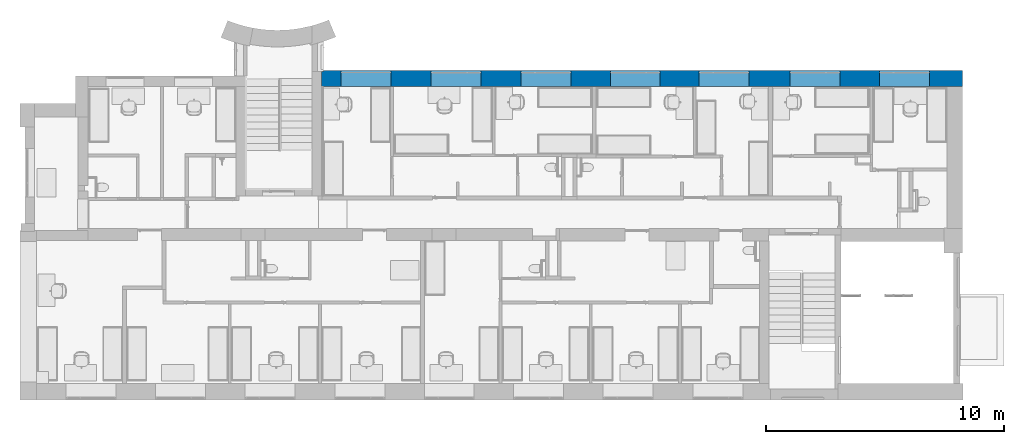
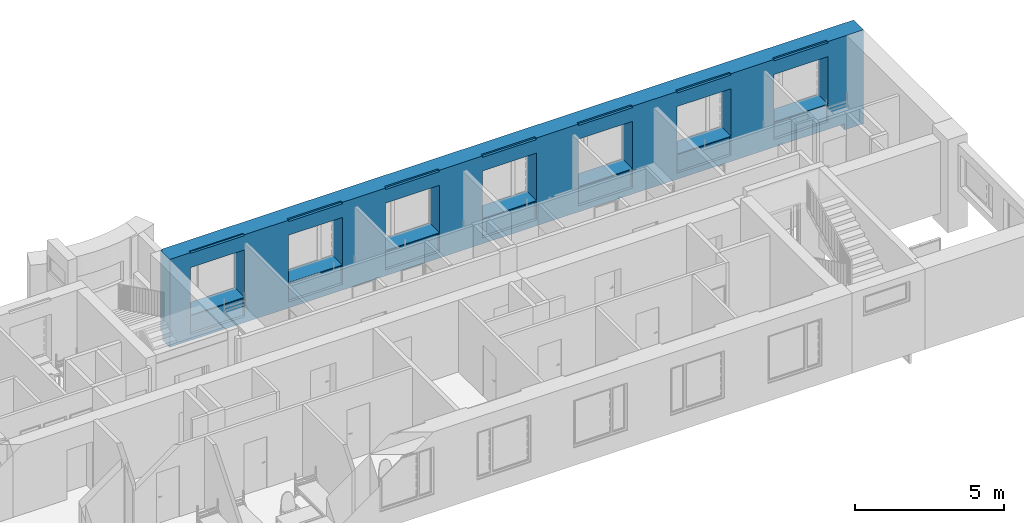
# One storey, part 17 of 46: 1 wall, 7 openings.
"""IFC2X3 building model written with IfcOpenShell, lengths in millimetres."""

from ifc_helpers import new_model, entity, si_unit, converted_unit, derived_unit, direction, frame, frame_2d, origin, place, context, subcontext, project, spatial, rectangle, extrude, faceted_brep, material, layer, layer_set, type_object, element, save


model = new_model("IFC2X3")

# Units and contexts
model_context = context("Model", 3, precision=0.01, world=origin(), true_north=direction((6.12303176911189e-17, 1.0)))
body_context = subcontext(model_context, "Body", "Model", "MODEL_VIEW")
ifc_project = project(units=[si_unit("LENGTHUNIT", "METRE", prefix="MILLI"), si_unit("AREAUNIT", "SQUARE_METRE"), si_unit("VOLUMEUNIT", "CUBIC_METRE"), converted_unit("PLANEANGLEUNIT", "DEGREE", entity("IfcRatioMeasure", 0.0174532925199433), si_unit("PLANEANGLEUNIT", "RADIAN"), dimensions=[0, 0, 0, 0, 0, 0, 0]), si_unit("MASSUNIT", "GRAM", prefix="KILO"), derived_unit("MASSDENSITYUNIT", [(si_unit("MASSUNIT", "GRAM", prefix="KILO"), 1), (si_unit("LENGTHUNIT", "METRE"), -3)]), si_unit("TIMEUNIT", "SECOND"), si_unit("FREQUENCYUNIT", "HERTZ"), si_unit("THERMODYNAMICTEMPERATUREUNIT", "DEGREE_CELSIUS"), derived_unit("THERMALTRANSMITTANCEUNIT", [(si_unit("MASSUNIT", "GRAM", prefix="KILO"), 1), (si_unit("THERMODYNAMICTEMPERATUREUNIT", "KELVIN"), -1), (si_unit("TIMEUNIT", "SECOND"), -3)]), derived_unit("VOLUMETRICFLOWRATEUNIT", [(si_unit("LENGTHUNIT", "METRE"), 3), (si_unit("TIMEUNIT", "SECOND"), -1)]), si_unit("ELECTRICCURRENTUNIT", "AMPERE"), si_unit("ELECTRICVOLTAGEUNIT", "VOLT"), si_unit("POWERUNIT", "WATT"), si_unit("FORCEUNIT", "NEWTON", prefix="KILO"), si_unit("ILLUMINANCEUNIT", "LUX"), si_unit("LUMINOUSFLUXUNIT", "LUMEN"), si_unit("LUMINOUSINTENSITYUNIT", "CANDELA"), derived_unit("USERDEFINED", [(si_unit("MASSUNIT", "GRAM", prefix="KILO"), -1), (si_unit("LENGTHUNIT", "METRE"), -2), (si_unit("TIMEUNIT", "SECOND"), 3), (si_unit("LUMINOUSFLUXUNIT", "LUMEN"), 1)]), derived_unit("LINEARVELOCITYUNIT", [(si_unit("LENGTHUNIT", "METRE"), 1), (si_unit("TIMEUNIT", "SECOND"), -1)]), si_unit("PRESSUREUNIT", "PASCAL"), derived_unit("USERDEFINED", [(si_unit("LENGTHUNIT", "METRE"), -2), (si_unit("MASSUNIT", "GRAM", prefix="KILO"), 1), (si_unit("TIMEUNIT", "SECOND"), -2)]), derived_unit("LINEARFORCEUNIT", [(si_unit("MASSUNIT", "GRAM", prefix="KILO"), 1), (si_unit("LENGTHUNIT", "METRE"), 1), (si_unit("TIMEUNIT", "SECOND"), -2), (si_unit("LENGTHUNIT", "METRE"), -1)]), derived_unit("PLANARFORCEUNIT", [(si_unit("MASSUNIT", "GRAM", prefix="KILO"), 1), (si_unit("LENGTHUNIT", "METRE"), 1), (si_unit("TIMEUNIT", "SECOND"), -2), (si_unit("LENGTHUNIT", "METRE"), -2)])], contexts=[model_context])

# Site, building, storey
site_placement = place(None, origin())
site = spatial("IfcSite", under=ifc_project, at=site_placement, Name="Default", CompositionType="ELEMENT")
building_placement = place(site_placement, origin())
building = spatial("IfcBuilding", under=site, at=building_placement, Name="SMA ARH", CompositionType="ELEMENT")
storey_placement = place(building_placement, origin())
storey = spatial("IfcBuildingStorey", under=building, at=storey_placement, Name="1 Korrus", CompositionType="ELEMENT", Elevation=0.0)

# Wall, openings
ifc_material = material(Name="_ol.olev sein")
ifc_layer = layer(ifc_material, 665.0)
ifc_layer_set = layer_set([ifc_layer], Name="Basic Wall:Generic - 665mm")
wall_type = type_object("IfcWallType", Name="Basic Wall:Generic - 665mm", PredefinedType="STANDARD", material=ifc_layer_set)
wall_placement = place(storey_placement, frame((38965.0, 12832.4999999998, -563.353004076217), z_axis=(0.0, 0.0, 1.0), x_axis=(-1.0, 0.0, 0.0)))
wall = element("IfcWall", 1, at=wall_placement, inside=storey, type_object=wall_type, material=ifc_material, Name="Basic Wall:Generic - 665mm", ObjectType="Basic Wall:Generic - 665mm", context=body_context, shape_type="Brep", body=[
    faceted_brep([(0.0, -332.5, 0.0), (26735.0, -332.499999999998, 0.0), (26735.0, -332.499999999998, 563.353004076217), (26895.0, -332.5, 563.353004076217), (26895.0, -332.5, 3863.35300407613), (0.0, -332.5, 3863.35300407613), (7250.0, -332.5, 3243.35300407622), (7250.0, -332.5, 1293.35300407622), (5150.0, -332.5, 1293.35300407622), (5150.0, -332.5, 3243.35300407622), (1385.0, -332.499999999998, 1293.35300407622), (1385.0, -332.499999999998, 3243.35300407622), (3485.0, -332.499999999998, 3243.35300407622), (3485.0, -332.499999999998, 1293.35300407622), (8975.0, -332.499999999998, 1293.35300407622), (8975.0, -332.499999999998, 3243.35300407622), (11075.0, -332.499999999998, 3243.35300407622), (11075.0, -332.499999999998, 1293.35300407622), (14815.0, -332.5, 3243.35300407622), (14815.0, -332.5, 1293.35300407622), (12715.0, -332.5, 1293.35300407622), (12715.0, -332.5, 3243.35300407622), (16475.0, -332.499999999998, 1293.35300407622), (16475.0, -332.499999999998, 3243.35300407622), (18575.0, -332.499999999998, 3243.35300407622), (18575.0, -332.499999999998, 1293.35300407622), (22355.0, -332.5, 3243.35300407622), (22355.0, -332.5, 1293.35300407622), (20255.0, -332.5, 1293.35300407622), (20255.0, -332.5, 3243.35300407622), (24055.0, -332.499999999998, 1293.35300407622), (24055.0, -332.499999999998, 3243.35300407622), (26155.0, -332.5, 3243.35300407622), (26155.0, -332.5, 1293.35300407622), (7250.0, 332.5, 1293.35300407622), (7250.0, 332.5, 3243.35300407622), (5150.0, 332.5, 3243.35300407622), (5150.0, 332.5, 1293.35300407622), (1385.0, 332.500000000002, 3243.35300407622), (1385.0, 332.500000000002, 1293.35300407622), (3485.0, 332.500000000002, 1293.35300407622), (3485.0, 332.500000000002, 3243.35300407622), (8975.0, 332.500000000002, 3243.35300407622), (8975.0, 332.500000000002, 1293.35300407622), (11075.0, 332.500000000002, 1293.35300407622), (11075.0, 332.500000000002, 3243.35300407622), (14815.0, 332.5, 1293.35300407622), (14815.0, 332.5, 3243.35300407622), (12715.0, 332.5, 3243.35300407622), (12715.0, 332.5, 1293.35300407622), (16475.0, 332.500000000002, 3243.35300407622), (16475.0, 332.500000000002, 1293.35300407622), (18575.0, 332.500000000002, 1293.35300407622), (18575.0, 332.500000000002, 3243.35300407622), (22355.0, 332.5, 1293.35300407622), (22355.0, 332.5, 3243.35300407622), (20255.0, 332.5, 3243.35300407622), (20255.0, 332.5, 1293.35300407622), (24055.0, 332.500000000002, 3243.35300407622), (24055.0, 332.500000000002, 1293.35300407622), (26155.0, 332.5, 1293.35300407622), (26155.0, 332.5, 3243.35300407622), (0.0, 332.5, 0.0), (0.0, 332.5, 40.3993745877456), (0.0, 332.5, 3863.35300407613), (650.0, 332.5, 3863.35300407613), (1385.0, 332.500000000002, 3863.35300407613), (1385.0, 332.500000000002, 3803.35300407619), (3485.0, 332.500000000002, 3803.35300407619), (3485.0, 332.500000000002, 3863.35300407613), (5150.0, 332.5, 3863.35300407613), (5150.0, 332.5, 3803.35300407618), (7250.0, 332.5, 3803.35300407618), (7250.0, 332.5, 3863.35300407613), (8975.0, 332.500000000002, 3863.35300407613), (8975.0, 332.500000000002, 3803.35300407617), (11075.0, 332.500000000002, 3803.35300407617), (11075.0, 332.500000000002, 3863.35300407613), (12715.0, 332.5, 3863.35300407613), (12715.0, 332.5, 3803.35300407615), (14815.0, 332.5, 3803.35300407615), (14815.0, 332.5, 3863.35300407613), (16475.0, 332.500000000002, 3863.35300407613), (16475.0, 332.500000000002, 3803.35300407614), (18575.0, 332.500000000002, 3803.35300407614), (18575.0, 332.500000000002, 3863.35300407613), (20255.0, 332.5, 3863.35300407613), (20255.0, 332.5, 3803.35300407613), (22355.0, 332.5, 3803.35300407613), (22355.0, 332.5, 3863.35300407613), (24055.0, 332.500000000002, 3863.35300407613), (24055.0, 332.500000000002, 3830.22217168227), (26155.0, 332.5, 3830.22217168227), (26155.0, 332.5, 3863.35300407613), (26965.0, 332.5, 3863.35300407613), (26965.0, 332.5, 3853.35300407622), (26965.0, 332.5, 3503.35300407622), (26965.0, 332.5, 563.353004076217), (26965.0, 332.5, 253.353004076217), (730.0, 332.500000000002, 253.353004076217), (730.0, 332.500000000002, 213.353004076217), (730.0, 332.500000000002, 0.0), (65.0, 332.500000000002, 0.0), (24055.0, 332.500000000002, 1261.48383646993), (24055.0, 332.500000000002, 498.353004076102), (26155.0, 332.5, 498.353004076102), (26155.0, 332.5, 1261.48383646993), (20255.0, 332.5, 1261.48383646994), (20255.0, 332.5, 498.353004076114), (22355.0, 332.5, 498.353004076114), (22355.0, 332.5, 1261.48383646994), (16475.0, 332.500000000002, 1261.48383646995), (16475.0, 332.500000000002, 498.353004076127), (18575.0, 332.500000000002, 498.353004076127), (18575.0, 332.500000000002, 1261.48383646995), (12715.0, 332.5, 1261.48383646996), (12715.0, 332.5, 498.353004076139), (14815.0, 332.5, 498.353004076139), (14815.0, 332.5, 1261.48383646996), (8975.0, 332.500000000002, 1261.48383646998), (8975.0, 332.500000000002, 503.353004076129), (11075.0, 332.500000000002, 503.353004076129), (11075.0, 332.500000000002, 1261.48383646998), (5150.0, 332.5, 1261.48383646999), (5150.0, 332.5, 503.353004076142), (7250.0, 332.5, 503.353004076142), (7250.0, 332.5, 1261.48383646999), (1385.0, 332.500000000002, 1261.48383647), (1385.0, 332.500000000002, 563.353004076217), (3485.0, 332.500000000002, 563.353004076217), (3485.0, 332.500000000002, 1261.48383647), (730.0, -267.500000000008, 0.0), (26735.0, -267.500000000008, 0.0), (26895.0, -285.758096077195, 3863.35300407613), (26965.0, -285.758096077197, 3863.35300407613), (26155.0, 232.499999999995, 3863.35300407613), (24055.0, 232.499999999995, 3863.35300407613), (22355.0, 232.499999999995, 3863.35300407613), (20255.0, 232.499999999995, 3863.35300407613), (18575.0, 232.499999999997, 3863.35300407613), (16475.0, 232.499999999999, 3863.35300407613), (14815.0, 232.499999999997, 3863.35300407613), (12715.0, 232.499999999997, 3863.35300407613), (11075.0, 232.499999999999, 3863.35300407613), (8975.0, 232.499999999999, 3863.35300407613), (7250.0, 232.499999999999, 3863.35300407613), (5150.0, 232.499999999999, 3863.35300407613), (3485.0, 232.499999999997, 3863.35300407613), (1385.0, 232.499999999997, 3863.35300407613), (26735.0, -142.499999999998, 563.353004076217), (26965.0, -142.499999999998, 563.353004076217), (26965.0, -285.758096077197, 563.353004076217), (26895.0, -285.758096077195, 563.353004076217), (26735.0, -267.500000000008, 253.353004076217), (26735.0, -142.499999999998, 253.353004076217), (26965.0, -142.499999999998, 253.353004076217), (26895.0, -285.758096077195, 2363.35300407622), (730.0, -267.500000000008, 253.353004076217), (24055.0, 232.499999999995, 1261.48383646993), (26155.0, 232.499999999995, 1261.48383646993), (26155.0, 232.499999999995, 498.353004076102), (24055.0, 232.499999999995, 498.353004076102), (26155.0, 232.499999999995, 3830.22217168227), (24055.0, 232.499999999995, 3830.22217168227), (20255.0, 232.499999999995, 1261.48383646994), (22355.0, 232.499999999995, 1261.48383646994), (22355.0, 232.499999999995, 498.353004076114), (20255.0, 232.499999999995, 498.353004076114), (16475.0, 232.499999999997, 1261.48383646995), (18575.0, 232.499999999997, 1261.48383646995), (18575.0, 232.499999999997, 498.353004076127), (16475.0, 232.499999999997, 498.353004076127), (12715.0, 232.499999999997, 1261.48383646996), (14815.0, 232.499999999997, 1261.48383646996), (14815.0, 232.499999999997, 498.353004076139), (12715.0, 232.499999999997, 498.353004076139), (8975.0, 232.499999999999, 1261.48383646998), (11075.0, 232.499999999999, 1261.48383646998), (11075.0, 232.499999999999, 503.353004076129), (8975.0, 232.499999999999, 503.353004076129), (5150.0, 232.499999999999, 1261.48383646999), (7250.0, 232.499999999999, 1261.48383646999), (7250.0, 232.499999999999, 503.353004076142), (5150.0, 232.499999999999, 503.353004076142), (1385.0, 232.500000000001, 1261.48383647), (3485.0, 232.500000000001, 1261.48383647), (3485.0, 232.500000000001, 563.353004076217), (1385.0, 232.500000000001, 563.353004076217), (22355.0, 232.499999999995, 3803.35300407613), (20255.0, 232.499999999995, 3803.35300407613), (18575.0, 232.499999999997, 3803.35300407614), (16475.0, 232.499999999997, 3803.35300407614), (14815.0, 232.499999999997, 3803.35300407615), (12715.0, 232.499999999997, 3803.35300407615), (11075.0, 232.499999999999, 3803.35300407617), (8975.0, 232.499999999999, 3803.35300407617), (7250.0, 232.499999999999, 3803.35300407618), (5150.0, 232.499999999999, 3803.35300407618), (3485.0, 232.499999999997, 3803.35300407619), (1385.0, 232.499999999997, 3803.35300407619)], [[[0, 1, 2, 3, 4, 5], [6, 7, 8, 9], [10, 11, 12, 13], [14, 15, 16, 17], [18, 19, 20, 21], [22, 23, 24, 25], [26, 27, 28, 29], [30, 31, 32, 33]], [[34, 35, 36, 37], [38, 39, 40, 41], [42, 43, 44, 45], [46, 47, 48, 49], [50, 51, 52, 53], [54, 55, 56, 57], [58, 59, 60, 61], [62, 63, 64, 65, 66, 67, 68, 69, 70, 71, 72, 73, 74, 75, 76, 77, 78, 79, 80, 81, 82, 83, 84, 85, 86, 87, 88, 89, 90, 91, 92, 93, 94, 95, 96, 97, 98, 99, 100, 101, 102], [103, 104, 105, 106], [107, 108, 109, 110], [111, 112, 113, 114], [115, 116, 117, 118], [119, 120, 121, 122], [123, 124, 125, 126], [127, 128, 129, 130]], [[1, 0, 62, 102, 101, 131, 132]], [[5, 4, 133, 134, 94, 93, 135, 136, 90, 89, 137, 138, 86, 85, 139, 140, 82, 81, 141, 142, 78, 77, 143, 144, 74, 73, 145, 146, 70, 69, 147, 148, 66, 65, 64]], [[35, 34, 7, 6]], [[36, 35, 6, 9]], [[37, 36, 9, 8]], [[34, 37, 8, 7]], [[11, 10, 39, 38]], [[12, 11, 38, 41]], [[13, 12, 41, 40]], [[10, 13, 40, 39]], [[15, 14, 43, 42]], [[16, 15, 42, 45]], [[17, 16, 45, 44]], [[14, 17, 44, 43]], [[47, 46, 19, 18]], [[48, 47, 18, 21]], [[49, 48, 21, 20]], [[46, 49, 20, 19]], [[23, 22, 51, 50]], [[24, 23, 50, 53]], [[25, 24, 53, 52]], [[22, 25, 52, 51]], [[55, 54, 27, 26]], [[56, 55, 26, 29]], [[57, 56, 29, 28]], [[54, 57, 28, 27]], [[31, 30, 59, 58]], [[32, 31, 58, 61]], [[33, 32, 61, 60]], [[30, 33, 60, 59]], [[3, 2, 149, 150, 151, 152]], [[2, 1, 132, 153, 154, 149]], [[150, 149, 154, 155]], [[0, 5, 64, 63, 62]], [[4, 3, 152, 156, 133]], [[152, 151, 134, 133, 156]], [[151, 150, 155, 98, 97, 96, 95, 94, 134]], [[157, 153, 132, 131]], [[153, 157, 99, 98, 155, 154]], [[157, 131, 101, 100, 99]], [[158, 159, 160, 161]], [[158, 161, 104, 103]], [[161, 160, 105, 104]], [[160, 159, 106, 105]], [[159, 158, 103, 106]], [[162, 163, 136, 135]], [[163, 91, 90, 136]], [[163, 162, 92, 91]], [[92, 162, 135, 93]], [[164, 165, 166, 167]], [[164, 167, 108, 107]], [[167, 166, 109, 108]], [[166, 165, 110, 109]], [[165, 164, 107, 110]], [[168, 169, 170, 171]], [[168, 171, 112, 111]], [[171, 170, 113, 112]], [[170, 169, 114, 113]], [[169, 168, 111, 114]], [[172, 173, 174, 175]], [[172, 175, 116, 115]], [[175, 174, 117, 116]], [[174, 173, 118, 117]], [[173, 172, 115, 118]], [[176, 177, 178, 179]], [[176, 179, 120, 119]], [[179, 178, 121, 120]], [[178, 177, 122, 121]], [[177, 176, 119, 122]], [[180, 181, 182, 183]], [[180, 183, 124, 123]], [[183, 182, 125, 124]], [[182, 181, 126, 125]], [[181, 180, 123, 126]], [[184, 185, 186, 187]], [[184, 187, 128, 127]], [[187, 186, 129, 128]], [[186, 185, 130, 129]], [[185, 184, 127, 130]], [[188, 189, 138, 137]], [[189, 87, 86, 138]], [[189, 188, 88, 87]], [[88, 188, 137, 89]], [[190, 191, 140, 139]], [[191, 83, 82, 140]], [[191, 190, 84, 83]], [[84, 190, 139, 85]], [[192, 193, 142, 141]], [[193, 79, 78, 142]], [[193, 192, 80, 79]], [[80, 192, 141, 81]], [[194, 195, 144, 143]], [[195, 75, 74, 144]], [[195, 194, 76, 75]], [[76, 194, 143, 77]], [[196, 197, 146, 145]], [[197, 71, 70, 146]], [[197, 196, 72, 71]], [[72, 196, 145, 73]], [[198, 199, 148, 147]], [[199, 67, 66, 148]], [[199, 198, 68, 67]], [[68, 198, 147, 69]]], outer=[[True, False, False, False, False, False, False, False], [False, False, False, False, False, False, False, True, False, False, False, False, False, False, False], [True], [True], [True], [True], [True], [True], [True], [True], [True], [True], [True], [True], [True], [True], [True], [True], [True], [True], [True], [True], [True], [True], [True], [True], [True], [True], [True], [True], [True], [True], [True], [True], [True], [True], [True], [True], [True], [True], [True], [True], [True], [True], [True], [True], [True], [True], [True], [True], [True], [True], [True], [True], [True], [True], [True], [True], [True], [True], [True], [True], [True], [True], [True], [True], [True], [True], [True], [True], [True], [True], [True], [True], [True], [True], [True], [True], [True], [True], [True], [True], [True], [True], [True], [True], [True], [True], [True], [True], [True], [True], [True], [True], [True], [True], [True], [True], [True], [True], [True], [True], [True], [True], [True]]),
])
opening_1_placement = place(wall_placement, frame((7250.0, 332.499999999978, 1293.35300407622)))
element("IfcOpeningElement", 2, at=opening_1_placement, cuts=wall, Name="SMA_W2, 2-jaotus:A-00 - 2100x1900:1", ObjectType="Opening", context=body_context, shape_type="SweptSolid", body=[
    extrude(rectangle(XDim=1950.0, YDim=2100.0, at=frame_2d((975.0, 1050.0), x_axis=(1.0, 0.0))), frame((0.0, 0.0, 0.0), z_axis=(0.0, -1.0, 0.0), x_axis=(0.0, 0.0, 1.0)), (0.0, 0.0, 1.0), 665.0),
])
opening_2_placement = place(wall_placement, frame((3485.0, 332.499999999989, 1293.35300407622)))
element("IfcOpeningElement", 3, at=opening_2_placement, cuts=wall, Name="SMA_W2, 2-jaotus:A-00 - 2100x1900:1", ObjectType="Opening", context=body_context, shape_type="SweptSolid", body=[
    extrude(rectangle(XDim=1950.0, YDim=2100.0, at=frame_2d((975.0, 1050.0), x_axis=(1.0, 0.0))), frame((0.0, 0.0, 0.0), z_axis=(0.0, -1.0, 0.0), x_axis=(0.0, 0.0, 1.0)), (0.0, 0.0, 1.0), 665.0),
])
opening_3_placement = place(wall_placement, frame((11075.0, 332.499999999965, 1293.35300407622)))
element("IfcOpeningElement", 4, at=opening_3_placement, cuts=wall, Name="SMA_W2, 2-jaotus:A-00 - 2100x1900:1", ObjectType="Opening", context=body_context, shape_type="SweptSolid", body=[
    extrude(rectangle(XDim=1950.0, YDim=2100.0, at=frame_2d((975.0, 1050.0), x_axis=(1.0, 0.0))), frame((0.0, 0.0, 0.0), z_axis=(0.0, -1.0, 0.0), x_axis=(0.0, 0.0, 1.0)), (0.0, 0.0, 1.0), 665.0),
])
opening_4_placement = place(wall_placement, frame((14815.0, 332.499999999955, 1293.35300407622)))
element("IfcOpeningElement", 5, at=opening_4_placement, cuts=wall, Name="SMA_W2, 2-jaotus:A-00 - 2100x1900:1", ObjectType="Opening", context=body_context, shape_type="SweptSolid", body=[
    extrude(rectangle(XDim=1950.0, YDim=2100.0, at=frame_2d((975.0, 1050.0), x_axis=(1.0, 0.0))), frame((0.0, 0.0, 0.0), z_axis=(0.0, -1.0, 0.0), x_axis=(0.0, 0.0, 1.0)), (0.0, 0.0, 1.0), 665.0),
])
opening_5_placement = place(wall_placement, frame((18575.0, 332.499999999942, 1293.35300407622)))
element("IfcOpeningElement", 6, at=opening_5_placement, cuts=wall, Name="SMA_W2, 2-jaotus:A-00 - 2100x1900:1", ObjectType="Opening", context=body_context, shape_type="SweptSolid", body=[
    extrude(rectangle(XDim=1950.0, YDim=2100.0, at=frame_2d((975.0, 1050.0), x_axis=(1.0, 0.0))), frame((0.0, 0.0, 0.0), z_axis=(0.0, -1.0, 0.0), x_axis=(0.0, 0.0, 1.0)), (0.0, 0.0, 1.0), 665.0),
])
opening_6_placement = place(wall_placement, frame((22355.0, 332.499999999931, 1293.35300407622)))
element("IfcOpeningElement", 7, at=opening_6_placement, cuts=wall, Name="SMA_W2, 2-jaotus:A-00 - 2100x1900:1", ObjectType="Opening", context=body_context, shape_type="SweptSolid", body=[
    extrude(rectangle(XDim=1950.0, YDim=2100.0, at=frame_2d((975.0, 1050.0), x_axis=(1.0, 0.0))), frame((0.0, 0.0, 0.0), z_axis=(0.0, -1.0, 0.0), x_axis=(0.0, 0.0, 1.0)), (0.0, 0.0, 1.0), 665.0),
])
opening_7_placement = place(wall_placement, frame((26155.0, 332.499999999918, 1293.35300407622)))
element("IfcOpeningElement", 8, at=opening_7_placement, cuts=wall, Name="SMA_W2, 2-jaotus:A-01 - 2100x1900:1", ObjectType="Opening", context=body_context, shape_type="SweptSolid", body=[
    extrude(rectangle(XDim=1950.0, YDim=2100.0, at=frame_2d((975.0, 1050.0), x_axis=(1.0, 0.0))), frame((0.0, 0.0, 0.0), z_axis=(0.0, -1.0, 0.0), x_axis=(0.0, 0.0, 1.0)), (0.0, 0.0, 1.0), 665.0),
])

save(model, "model.ifc")
